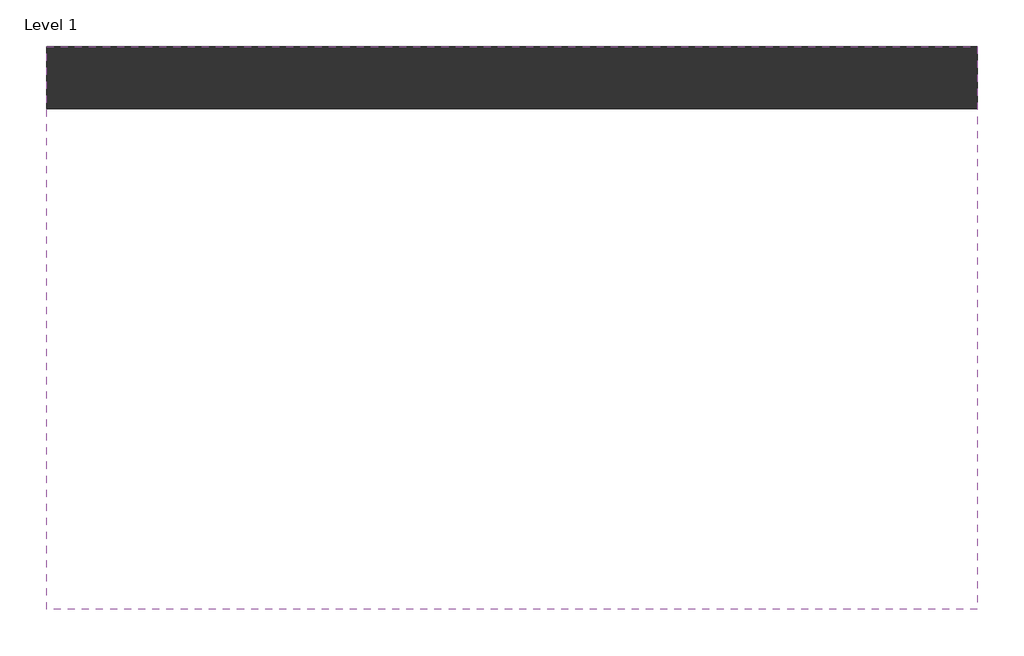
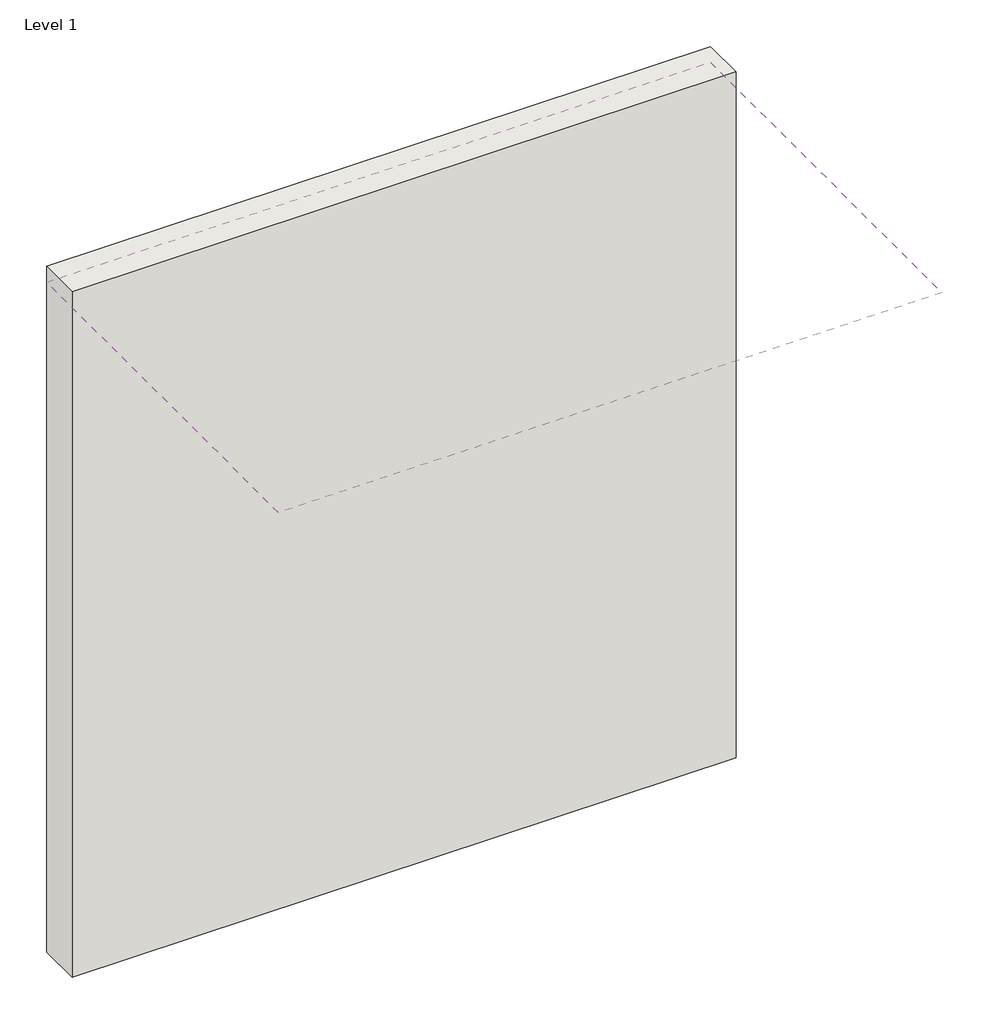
# One storey, incomplete: 1 covering, 1 wall.
"""IFC4 building model written with IfcOpenShell, lengths in millimetres."""

import ifcopenshell
import ifcopenshell.guid

model = None  # the IFC model being written
_history = None  # IfcOwnerHistory: only IFC2X3 demands one
_inside = {}  # id of a spatial element -> (the spatial element, [elements in it])
_under = {}  # id of a project, library or spatial element -> (it, [spatial elements below it])
_declared = {}  # id of a project -> (the project, [libraries it declares])
_typed = {}  # id of a type object -> (the type object, [elements of that type])
_made_of = {}  # id of a material, layer set ... -> (it, [elements and type objects made of it])


def new_model(schema):
    """Start an empty IFC model of exactly this schema.

    Asked for "IFC4X3", IfcOpenShell would pick the latest addendum, in which some entities
    have other attributes; the version numbers below select the first issue.
    IFC2X3 requires an IfcOwnerHistory on every rooted entity: one is made here for all.
    """
    global model, _history
    if schema == "IFC4X3":
        model = ifcopenshell.file(schema_version=(4, 3, 0, 0))
    else:
        model = ifcopenshell.file(schema=schema)
    _inside.clear()
    _under.clear()
    _declared.clear()
    _typed.clear()
    _made_of.clear()
    _history = None
    if model.schema == "IFC2X3":
        org = make("IfcOrganization", Name="unknown")
        user = make(
            "IfcPersonAndOrganization",
            ThePerson=make("IfcPerson", FamilyName="unknown"),
            TheOrganization=org,
        )
        app = make(
            "IfcApplication",
            ApplicationDeveloper=org,
            Version="unknown",
            ApplicationFullName="unknown",
            ApplicationIdentifier="unknown",
        )
        _history = make(
            "IfcOwnerHistory",
            OwningUser=user,
            OwningApplication=app,
            ChangeAction="ADDED",
            CreationDate=0,
        )
    return model


def make(cls, **values):
    """One entity of the class cls with the attributes given. An attribute that is None is left unset."""
    return model.create_entity(
        cls, **{name: value for name, value in values.items() if value is not None}
    )


def rooted(cls, **values):
    """An entity with a GlobalId (a new one), such as an element, a storey or a relation."""
    return make(cls, GlobalId=ifcopenshell.guid.new(), OwnerHistory=_history, **values)


def si_unit(unit_type, name, prefix=None):
    """IfcSIUnit, for example si_unit("LENGTHUNIT", "METRE", prefix="MILLI")."""
    return make("IfcSIUnit", UnitType=unit_type, Prefix=prefix, Name=name)


def assignment(units):
    """IfcUnitAssignment: the units of a project."""
    return None if units is None else make("IfcUnitAssignment", Units=units)


def point(xyz):
    """IfcCartesianPoint."""
    return None if xyz is None else make("IfcCartesianPoint", Coordinates=xyz)


def direction(xyz):
    """IfcDirection."""
    return None if xyz is None else make("IfcDirection", DirectionRatios=xyz)


def frame(location, z_axis=None, x_axis=None):
    """IfcAxis2Placement3D, a coordinate frame: its origin and axes. An axis left out is left unset."""
    return make(
        "IfcAxis2Placement3D",
        Location=point(location),
        Axis=direction(z_axis),
        RefDirection=direction(x_axis),
    )


def origin():
    """The frame at (0, 0, 0) with its axes left unset."""
    return frame((0.0, 0.0, 0.0))


def origin_with_axes():
    """The frame at (0, 0, 0) with the z axis (0, 0, 1) and the x axis (1, 0, 0) written out."""
    return frame((0.0, 0.0, 0.0), z_axis=(0.0, 0.0, 1.0), x_axis=(1.0, 0.0, 0.0))


def place(relative_to, where):
    """IfcLocalPlacement: puts the frame where relative to a parent placement (None: the world)."""
    return make(
        "IfcLocalPlacement", PlacementRelTo=relative_to, RelativePlacement=where
    )


def context(
    kind, dimensions, precision=None, world=None, true_north=None, identifier=None
):
    """IfcGeometricRepresentationContext, for example the 3D "Model" context."""
    return make(
        "IfcGeometricRepresentationContext",
        ContextIdentifier=identifier,
        ContextType=kind,
        CoordinateSpaceDimension=dimensions,
        Precision=precision,
        WorldCoordinateSystem=world,
        TrueNorth=true_north,
    )


def project(units=None, contexts=None):
    """IfcProject with its units and contexts."""
    return rooted(
        "IfcProject",
        Name="project",
        RepresentationContexts=contexts,
        UnitsInContext=assignment(units),
    )


def spatial(cls, under=None, at=None, **own):
    """A site, building, storey or space (cls), placed at a placement, below another one or the project."""
    s = rooted(cls, ObjectPlacement=at, **own)
    if under is not None:
        _under.setdefault(under.id(), (under, []))[1].append(s)
    return s


def polyline(points):
    """IfcPolyline through the points."""
    return make("IfcPolyline", Points=[point(p) for p in points])


def outline(outer, holes=None, kind="AREA"):
    """IfcArbitraryClosedProfileDef: a profile drawn as a closed curve; with holes, ...WithVoids."""
    if holes is None:
        return make("IfcArbitraryClosedProfileDef", ProfileType=kind, OuterCurve=outer)
    return make(
        "IfcArbitraryProfileDefWithVoids",
        ProfileType=kind,
        OuterCurve=outer,
        InnerCurves=holes,
    )


def extrude(swept, where, along, depth):
    """IfcExtrudedAreaSolid: the profile swept, set in the frame where, extruded along a direction by depth."""
    return make(
        "IfcExtrudedAreaSolid",
        SweptArea=swept,
        Position=where,
        ExtrudedDirection=direction(along),
        Depth=depth,
    )


def shape(context_of_items, identifier, shape_type, items):
    """IfcShapeRepresentation: the items that make up one representation, for example the "Body"."""
    return make(
        "IfcShapeRepresentation",
        ContextOfItems=context_of_items,
        RepresentationIdentifier=identifier,
        RepresentationType=shape_type,
        Items=items,
    )


def made_of(thing, what):
    """Note that an element or type object is made of a material, layer set ...; save() writes the relation."""
    if what is not None:
        _made_of.setdefault(what.id(), (what, []))[1].append(thing)
    return thing


def element(
    cls,
    number,
    at=None,
    inside=None,
    cuts=None,
    type_object=None,
    material=None,
    context=None,
    identifier="Body",
    shape_type=None,
    held_by="IfcProductDefinitionShape",
    body=None,
    shapes=None,
    **own,
):
    """One element of the class cls, such as IfcWall. Its Tag is "e" and its number.

    at: its placement. inside: the storey or other place that contains it. cuts: it is an
    opening in that element (IfcRelVoidsElement). A single representation is given by context,
    identifier, shape_type and body (its items); several are given by shapes. held_by: the class
    of the entity that holds the representations. save() writes the other relations.
    """
    e = rooted(cls, Tag="e%d" % number, ObjectPlacement=at, **own)
    if body is not None:
        shapes = [shape(context, identifier, shape_type, body)]
    if shapes is not None:
        e.Representation = make(held_by, Representations=shapes)
    if inside is not None:
        _inside.setdefault(inside.id(), (inside, []))[1].append(e)
    if cuts is not None:
        rooted(
            "IfcRelVoidsElement", RelatingBuildingElement=cuts, RelatedOpeningElement=e
        )
    if type_object is not None:
        _typed.setdefault(type_object.id(), (type_object, []))[1].append(e)
    return made_of(e, material)


def aggregate(whole, parts):
    """IfcRelAggregates: a whole, such as a stair, and the parts it consists of."""
    return rooted("IfcRelAggregates", RelatingObject=whole, RelatedObjects=parts)


def save(model, path):
    """Write the relations noted so far, then the file.

    IfcRelAggregates (storeys below a building ...), IfcRelContainedInSpatialStructure (elements
    in a storey), IfcRelDefinesByType, IfcRelAssociatesMaterial and IfcRelDeclares: one each for
    every whole, place, type object, material and project.
    """
    for whole, parts in _under.values():
        aggregate(whole, parts)
    for where, things in _inside.values():
        rooted(
            "IfcRelContainedInSpatialStructure",
            RelatedElements=things,
            RelatingStructure=where,
        )
    for kind, things in _typed.values():
        rooted("IfcRelDefinesByType", RelatedObjects=things, RelatingType=kind)
    for what, things in _made_of.values():
        rooted("IfcRelAssociatesMaterial", RelatedObjects=things, RelatingMaterial=what)
    for by, libraries in _declared.values():
        rooted("IfcRelDeclares", RelatingContext=by, RelatedDefinitions=libraries)
    model.write(path)


model = new_model("IFC4")

# Units and contexts
model_context = context("Model", 3, world=origin())
ifc_project = project(units=[si_unit("LENGTHUNIT", "METRE", prefix="MILLI")], contexts=[model_context])

# Site, building, storey
site = spatial("IfcSite", under=ifc_project)
building = spatial("IfcBuilding", under=site)
storey = spatial("IfcBuildingStorey", under=building, Name="Level 1", Elevation=0.0)

# Covering
placement = place(None, origin())
element("IfcCovering", 1, ObjectType="2' x 4' ACT System", at=placement, inside=storey, context=model_context, shape_type="SweptSolid", body=[
    extrude(outline(polyline([(4119.1973575, 2115.5766815), (4119.1973575, 732.2741036), (1833.1973575, 732.2741036), (1833.1973575, 2115.5766815), (4119.1973575, 2115.5766815)])), frame((0.0, 0.0, 2438.4), z_axis=(0.0, 0.0, 1.0), x_axis=(1.0, 0.0, 0.0)), (0.0, 0.0, 1.0), 57.15),
])

# Wall
element("IfcWall", 2, ObjectType="Exterior - 6\" Generic", at=placement, inside=storey, context=model_context, shape_type="SweptSolid", body=[
    extrude(outline(polyline([(4119.1973575, 1963.1766815), (1833.1973575, 1963.1766815), (1833.1973575, 2115.5766815), (4119.1973575, 2115.5766815), (4119.1973575, 1963.1766815)])), origin_with_axes(), (0.0, 0.0, 1.0), 2495.55),
])

save(model, "model.ifc")
